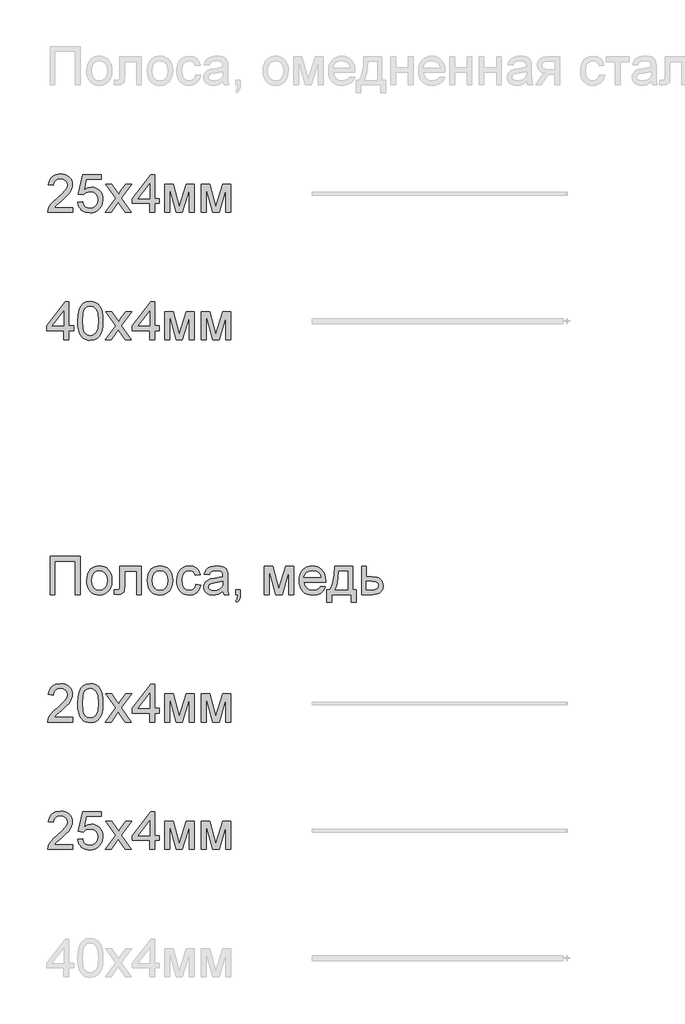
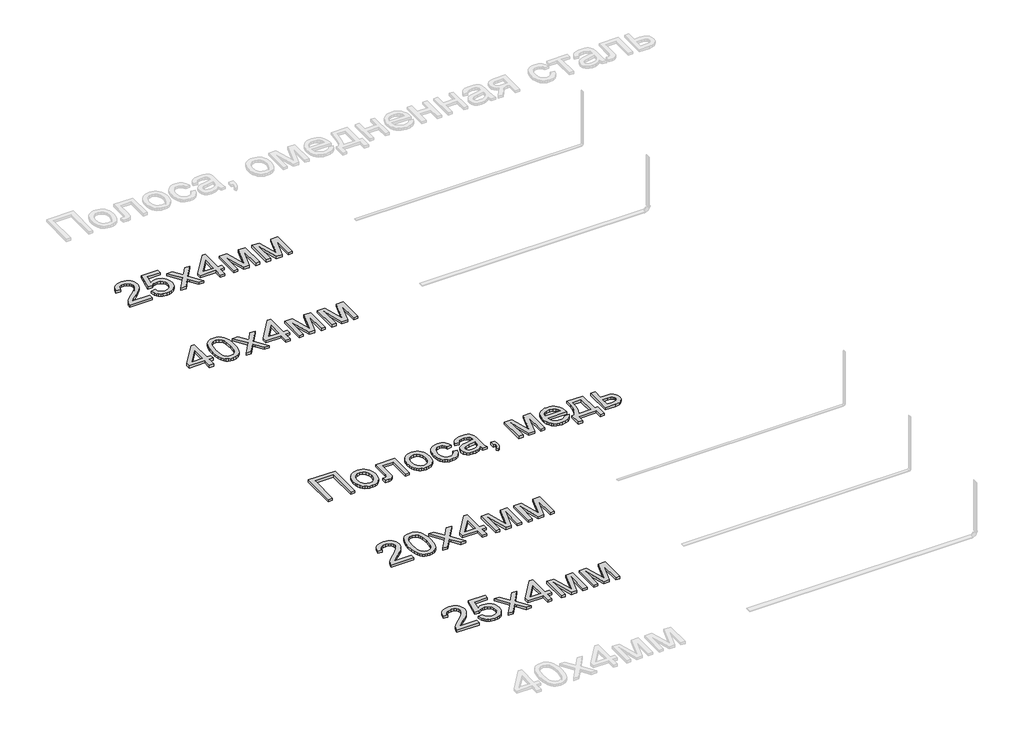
# One storey, part 84 of 124: 5 proxies.
"""IFC4 building model written with IfcOpenShell, lengths in millimetres."""

from ifc_helpers import new_model, si_unit, origin, origin_with_axes, place, context, project, spatial, polyline, outline, extrude, element, save

model = new_model("IFC4")

# Units and contexts
model_context = context("Model", 3, world=origin())
ifc_project = project(units=[si_unit("LENGTHUNIT", "METRE", prefix="MILLI")], contexts=[model_context])

# Site, building, storey
site = spatial("IfcSite", under=ifc_project)
building = spatial("IfcBuilding", under=site)
storey = spatial("IfcBuildingStorey", under=building, Name="Этаж 01", Elevation=0.0)

# Proxies
placement = place(None, origin())
element("IfcBuildingElementProxy", 1, Name="300", ObjectType="300", at=placement, inside=storey, context=model_context, shape_type="SweptSolid", body=[
    extrude(outline(polyline([(1478.7598701, -26181.842987), (1478.7598701, -26219.5141033), (1280.9865095, -26219.5141033), (1285.0332115, -26193.5416344), (1294.3222319, -26173.2437453), (1307.9154716, -26153.5528615), (1327.5787642, -26132.9422727), (1355.0779434, -26109.8852687), (1395.7289038, -26073.7776509), (1420.1194801, -26047.1246003), (1432.3147683, -26025.493139), (1436.3798643, -26004.4502889), (1432.5446945, -25985.5871396), (1421.0391851, -25969.9061695), (1403.3532582, -25959.3387592), (1380.9768358, -25955.8162891), (1357.4783734, -25959.2559858), (1339.2222294, -25969.5750757), (1327.4408085, -25985.9642186), (1323.3665154, -26007.614074), (1285.6953991, -26002.9051845), (1294.8280696, -25966.4664729), (1303.3744282, -25951.9305355), (1314.5741357, -25939.8502105), (1328.1696747, -25930.3542565), (1343.9035278, -25923.5714322), (1381.7861762, -25918.1451728), (1401.976, -25919.653489), (1419.9447362, -25924.1784375), (1435.6923848, -25931.7200184), (1449.2189459, -25942.2782317), (1460.0829611, -25955.0713281), (1467.8429719, -25969.3175583), (1472.4989784, -25985.0169225), (1474.0509806, -26002.1694205), (1472.3771175, -26020.1864412), (1467.3555283, -26037.8907622), (1458.443587, -26055.8985859), (1445.0986676, -26074.8261146), (1423.8258912, -26097.4232661), (1391.1303789, -26126.4399585), (1347.7938799, -26162.676335), (1330.7977317, -26181.842987), (1478.7598701, -26181.842987)])), origin_with_axes(), (0.0, 0.0, 1.0), 20.0),
    extrude(outline(polyline([(1516.4309865, -26139.4629811), (1554.1021028, -26134.7540916), (1561.0182843, -26157.3696372), (1573.0848137, -26173.5656421), (1590.2465088, -26183.3053179), (1612.4481872, -26186.5518765), (1639.4507256, -26182.036125), (1659.6842354, -26168.4888705), (1672.3209819, -26147.4736116), (1676.5332308, -26120.5538466), (1672.5876964, -26095.2067771), (1660.7510932, -26075.8193959), (1640.9314507, -26063.5137432), (1613.0367984, -26059.411859), (1594.7622603, -26061.0489338), (1579.964207, -26065.9601585), (1558.8109923, -26082.9563067), (1521.139876, -26078.2474171), (1554.1021028, -25922.8540624), (1700.0776784, -25922.8540624), (1700.0776784, -25960.5251787), (1584.562732, -25960.5251787), (1568.4495006, -26043.5193568), (1595.3600685, -26027.1853962), (1623.5582234, -26021.7407427), (1641.9040387, -26023.4284013), (1658.7553333, -26028.4913773), (1674.1121074, -26036.9296705), (1687.9743608, -26048.7432811), (1699.4499798, -26063.2102406), (1707.6468505, -26079.6085805), (1712.5649729, -26097.9383009), (1714.2043471, -26118.1994018), (1708.299841, -26155.8705181), (1700.9192085, -26172.6643312), (1690.586323, -26188.0969809), (1674.9329441, -26203.9021111), (1656.667603, -26215.1914898), (1635.7902998, -26221.9651171), (1612.3010344, -26224.2229928), (1575.3013027, -26218.4196543), (1559.622632, -26211.1654812), (1545.8247579, -26201.0096389), (1534.3445404, -26188.4579651), (1525.6188393, -26174.0162975), (1516.4309865, -26139.4629811)])), origin_with_axes(), (0.0, 0.0, 1.0), 20.0),
    extrude(outline(polyline([(1733.0399052, -26219.5141033), (1813.5324858, -26108.2665879), (1737.7487948, -25998.196295), (1783.0718566, -25998.196295), (1819.6393269, -26051.1713023), (1836.7090515, -26076.1872779), (1851.4979077, -26055.733039), (1893.1421495, -25998.196295), (1938.4652113, -25998.196295), (1858.8555476, -26108.2665879), (1935.5221554, -26219.5141033), (1890.1990936, -26219.5141033), (1844.0666914, -26152.6331565), (1835.6054055, -26140.4194743), (1778.362967, -26219.5141033), (1733.0399052, -26219.5141033)])), origin_with_axes(), (0.0, 0.0, 1.0), 20.0),
    extrude(outline(polyline([(2081.497731, -26219.5141033), (2081.497731, -26148.8807602), (1944.9399344, -26148.8807602), (1944.9399344, -26111.2096439), (2090.9155101, -25922.8540624), (2119.1688474, -25922.8540624), (2119.1688474, -26111.2096439), (2156.8399637, -26111.2096439), (2156.8399637, -26148.8807602), (2119.1688474, -26148.8807602), (2119.1688474, -26219.5141033), (2081.497731, -26219.5141033)]), holes=[polyline([(2081.497731, -26111.2096439), (2081.497731, -25994.8117806), (1991.2930658, -26111.2096439), (2081.497731, -26111.2096439)])]), origin_with_axes(), (0.0, 0.0, 1.0), 20.0),
    extrude(outline(polyline([(2199.2199695, -25998.196295), (2264.0407771, -25998.196295), (2313.999152, -26175.3682638), (2367.8570761, -25998.196295), (2429.9555569, -25998.196295), (2429.9555569, -26219.5141033), (2392.2844406, -26219.5141033), (2392.2844406, -26041.3120648), (2338.1322109, -26219.5141033), (2288.6888707, -26219.5141033), (2236.8910858, -26032.7772025), (2236.8910858, -26219.5141033), (2199.2199695, -26219.5141033), (2199.2199695, -25998.196295)])), origin_with_axes(), (0.0, 0.0, 1.0), 20.0),
    extrude(outline(polyline([(2486.4622313, -25998.196295), (2551.2830389, -25998.196295), (2601.2414138, -26175.3682638), (2655.0993379, -25998.196295), (2717.1978187, -25998.196295), (2717.1978187, -26219.5141033), (2679.5267024, -26219.5141033), (2679.5267024, -26041.3120648), (2625.3744727, -26219.5141033), (2575.9311326, -26219.5141033), (2524.1333476, -26032.7772025), (2524.1333476, -26219.5141033), (2486.4622313, -26219.5141033), (2486.4622313, -25998.196295)])), origin_with_axes(), (0.0, 0.0, 1.0), 20.0),
])
element("IfcBuildingElementProxy", 2, Name="300", ObjectType="300", at=placement, inside=storey, context=model_context, shape_type="SweptSolid", body=[
    extrude(outline(polyline([(1408.1265271, -27219.5141033), (1408.1265271, -27148.8807602), (1271.5687305, -27148.8807602), (1271.5687305, -27111.2096439), (1417.5443062, -26922.8540624), (1445.7976434, -26922.8540624), (1445.7976434, -27111.2096439), (1483.4687597, -27111.2096439), (1483.4687597, -27148.8807602), (1445.7976434, -27148.8807602), (1445.7976434, -27219.5141033), (1408.1265271, -27219.5141033)]), holes=[polyline([(1408.1265271, -27111.2096439), (1408.1265271, -26994.8117806), (1317.9218619, -27111.2096439), (1408.1265271, -27111.2096439)])]), origin_with_axes(), (0.0, 0.0, 1.0), 20.0),
    extrude(outline(polyline([(1516.4309865, -27071.2576592), (1519.1992985, -27023.0191326), (1527.5042345, -26984.5478729), (1541.2630211, -26955.2552691), (1560.3928849, -26934.5527098), (1585.0317815, -26922.2470571), (1615.3176668, -26918.1451728), (1638.5310207, -26920.573194), (1659.3163534, -26927.8572575), (1676.6987777, -26939.7122548), (1689.7034062, -26955.8530773), (1699.5258555, -26976.1417694), (1707.361742, -27000.4403751), (1712.4936958, -27031.2964775), (1714.2043471, -27071.2576592), (1711.4636262, -27119.2202743), (1703.2414636, -27157.5995635), (1689.5654504, -27186.9197585), (1670.4631778, -27207.7050912), (1645.7690989, -27220.0935174), (1615.3176668, -27224.2229928), (1594.5691222, -27222.4295681), (1576.1750225, -27217.0492939), (1560.1353675, -27208.0821703), (1546.4501573, -27195.5281972), (1533.31677, -27172.8344766), (1523.9357792, -27144.5581467), (1518.3071846, -27110.6992076), (1516.4309865, -27071.2576592)]), holes=[polyline([(1554.1021028, -27071.1840828), (1558.5166867, -27130.4406752), (1564.0349166, -27150.7086739), (1571.7604385, -27164.7364742), (1591.4789135, -27181.0980259), (1615.3176668, -27186.5518765), (1639.15642, -27181.0796318), (1658.874895, -27164.6628978), (1666.6004169, -27150.6121048), (1672.1186468, -27130.3487047), (1676.5332308, -27071.1840828), (1672.2657996, -27013.2610627), (1666.9315107, -26993.0597426), (1659.4635062, -26978.6985492), (1639.7818194, -26961.5368541), (1614.8762084, -26955.8162891), (1591.2949725, -26960.8562725), (1572.3490497, -26975.9762225), (1564.3660104, -26991.6112072), (1558.6638395, -27012.6908456), (1554.1021028, -27071.1840828)])]), origin_with_axes(), (0.0, 0.0, 1.0), 20.0),
    extrude(outline(polyline([(1733.0399052, -27219.5141033), (1813.5324858, -27108.2665879), (1737.7487948, -26998.196295), (1783.0718566, -26998.196295), (1819.6393269, -27051.1713023), (1836.7090515, -27076.1872779), (1851.4979077, -27055.733039), (1893.1421495, -26998.196295), (1938.4652113, -26998.196295), (1858.8555476, -27108.2665879), (1935.5221554, -27219.5141033), (1890.1990936, -27219.5141033), (1844.0666914, -27152.6331565), (1835.6054055, -27140.4194743), (1778.362967, -27219.5141033), (1733.0399052, -27219.5141033)])), origin_with_axes(), (0.0, 0.0, 1.0), 20.0),
    extrude(outline(polyline([(2081.497731, -27219.5141033), (2081.497731, -27148.8807602), (1944.9399344, -27148.8807602), (1944.9399344, -27111.2096439), (2090.9155101, -26922.8540624), (2119.1688474, -26922.8540624), (2119.1688474, -27111.2096439), (2156.8399637, -27111.2096439), (2156.8399637, -27148.8807602), (2119.1688474, -27148.8807602), (2119.1688474, -27219.5141033), (2081.497731, -27219.5141033)]), holes=[polyline([(2081.497731, -27111.2096439), (2081.497731, -26994.8117806), (1991.2930658, -27111.2096439), (2081.497731, -27111.2096439)])]), origin_with_axes(), (0.0, 0.0, 1.0), 20.0),
    extrude(outline(polyline([(2199.2199695, -26998.196295), (2264.0407771, -26998.196295), (2313.999152, -27175.3682638), (2367.8570761, -26998.196295), (2429.9555569, -26998.196295), (2429.9555569, -27219.5141033), (2392.2844406, -27219.5141033), (2392.2844406, -27041.3120648), (2338.1322109, -27219.5141033), (2288.6888707, -27219.5141033), (2236.8910858, -27032.7772025), (2236.8910858, -27219.5141033), (2199.2199695, -27219.5141033), (2199.2199695, -26998.196295)])), origin_with_axes(), (0.0, 0.0, 1.0), 20.0),
    extrude(outline(polyline([(2486.4622313, -26998.196295), (2551.2830389, -26998.196295), (2601.2414138, -27175.3682638), (2655.0993379, -26998.196295), (2717.1978187, -26998.196295), (2717.1978187, -27219.5141033), (2679.5267024, -27219.5141033), (2679.5267024, -27041.3120648), (2625.3744727, -27219.5141033), (2575.9311326, -27219.5141033), (2524.1333476, -27032.7772025), (2524.1333476, -27219.5141033), (2486.4622313, -27219.5141033), (2486.4622313, -26998.196295)])), origin_with_axes(), (0.0, 0.0, 1.0), 20.0),
])
element("IfcBuildingElementProxy", 3, Name="300", ObjectType="300", at=placement, inside=storey, context=model_context, shape_type="SweptSolid", body=[
    extrude(outline(polyline([(1299.8220677, -28918.1451728), (1535.2665446, -28918.1451728), (1535.2665446, -29219.5141033), (1497.5954283, -29219.5141033), (1497.5954283, -28955.8162891), (1337.493184, -28955.8162891), (1337.493184, -29219.5141033), (1299.8220677, -29219.5141033), (1299.8220677, -28918.1451728)])), origin_with_axes(), (0.0, 0.0, 1.0), 20.0),
    extrude(outline(polyline([(1587.0643295, -29108.8551991), (1589.1014761, -29080.1925932), (1595.2129157, -29055.4939157), (1605.3986485, -29034.7591668), (1619.6586743, -29017.9883463), (1634.0152692, -29007.2691847), (1649.8617861, -28999.6126406), (1667.1982251, -28995.0187142), (1686.0245862, -28993.4874054), (1706.8076197, -28995.3521073), (1725.5994919, -29000.9462129), (1742.4002027, -29010.2697222), (1757.2097523, -29023.3226352), (1769.2969751, -29039.6634936), (1777.9307057, -29058.8508389), (1783.110944, -29080.8846712), (1784.8376901, -29105.7649904), (1781.7842696, -29143.8223828), (1772.6240079, -29172.7930899), (1757.6236195, -29194.4889305), (1737.049819, -29210.7217236), (1712.6132574, -29220.8476755), (1686.0245862, -29224.2229928), (1664.9380501, -29222.3651887), (1645.971434, -29216.7917765), (1629.1247379, -29207.5027561), (1614.3979618, -29194.4981276), (1602.4394977, -29177.9986201), (1593.8977376, -29158.2249629), (1588.7726815, -29135.1771559), (1587.0643295, -29108.8551991)]), holes=[polyline([(1624.7354458, -29108.7816227), (1629.0948475, -29142.8750866), (1642.1730524, -29167.1644953), (1661.8547391, -29181.7050312), (1686.0245862, -29186.5518765), (1710.0840687, -29181.6774401), (1729.7289673, -29167.0541307), (1742.8071722, -29142.4428253), (1747.1665738, -29107.6044003), (1742.779581, -29074.5042178), (1729.6186027, -29050.5459029), (1709.946113, -29036.005367), (1686.0245862, -29031.1585217), (1661.8547391, -29035.9869729), (1642.1730524, -29050.4723265), (1629.0948475, -29074.7065529), (1624.7354458, -29108.7816227)])]), origin_with_axes(), (0.0, 0.0, 1.0), 20.0),
    extrude(outline(polyline([(1846.0532541, -28998.196295), (2015.5732775, -28998.196295), (2015.5732775, -29219.2933741), (1977.9021612, -29219.2933741), (1977.9021612, -29035.8674113), (1883.7243704, -29035.8674113), (1883.7243704, -29141.4495439), (1881.1859847, -29190.15712), (1876.4311099, -29201.1843829), (1867.2432571, -29210.7217236), (1853.3005294, -29217.3160083), (1834.2810303, -29219.5141033), (1803.6732483, -29217.6011169), (1803.6732483, -29181.842987), (1820.5222437, -29181.842987), (1837.55518, -29179.5253304), (1844.360997, -29172.1676905), (1846.0532541, -29139.3158283), (1846.0532541, -28998.196295)])), origin_with_axes(), (0.0, 0.0, 1.0), 20.0),
    extrude(outline(polyline([(2062.6621729, -29108.8551991), (2064.6993194, -29080.1925932), (2070.8107591, -29055.4939157), (2080.9964918, -29034.7591668), (2095.2565177, -29017.9883463), (2109.6131125, -29007.2691847), (2125.4596295, -28999.6126406), (2142.7960685, -28995.0187142), (2161.6224296, -28993.4874054), (2182.4054631, -28995.3521073), (2201.1973352, -29000.9462129), (2217.9980461, -29010.2697222), (2232.8075957, -29023.3226352), (2244.8948185, -29039.6634936), (2253.528549, -29058.8508389), (2258.7087874, -29080.8846712), (2260.4355335, -29105.7649904), (2257.3821129, -29143.8223828), (2248.2218513, -29172.7930899), (2233.2214629, -29194.4889305), (2212.6476623, -29210.7217236), (2188.2111008, -29220.8476755), (2161.6224296, -29224.2229928), (2140.5358935, -29222.3651887), (2121.5692774, -29216.7917765), (2104.7225813, -29207.5027561), (2089.9958051, -29194.4981276), (2078.037341, -29177.9986201), (2069.495581, -29158.2249629), (2064.3705249, -29135.1771559), (2062.6621729, -29108.8551991)]), holes=[polyline([(2100.3332892, -29108.7816227), (2104.6926908, -29142.8750866), (2117.7708958, -29167.1644953), (2137.4525825, -29181.7050312), (2161.6224296, -29186.5518765), (2185.6819121, -29181.6774401), (2205.3268106, -29167.0541307), (2218.4050156, -29142.4428253), (2222.7644172, -29107.6044003), (2218.3774244, -29074.5042178), (2205.216446, -29050.5459029), (2185.5439563, -29036.005367), (2161.6224296, -29031.1585217), (2137.4525825, -29035.9869729), (2117.7708958, -29050.4723265), (2104.6926908, -29074.7065529), (2100.3332892, -29108.7816227)])]), origin_with_axes(), (0.0, 0.0, 1.0), 20.0),
    extrude(outline(polyline([(2444.0822255, -29139.4629811), (2481.7533418, -29144.1718706), (2471.2503108, -29177.6767234), (2451.5134418, -29202.9962017), (2424.4005387, -29218.916295), (2391.7694058, -29224.2229928), (2370.6414829, -29222.3720865), (2351.6978595, -29216.8193676), (2334.9385353, -29207.5648362), (2320.3635105, -29194.6084922), (2308.5659948, -29178.1940574), (2300.1391978, -29158.5652537), (2295.0831197, -29135.7220811), (2293.3977603, -29109.6645395), (2296.2764369, -29076.1412927), (2304.9124667, -29047.0878121), (2319.4438055, -29023.6261379), (2340.0084091, -29006.87831), (2364.6105175, -28996.8351316), (2391.254371, -28993.4874054), (2423.0853606, -28998.0859304), (2448.5335976, -29011.8815052), (2466.7897416, -29034.1383659), (2477.0444523, -29064.1207485), (2439.373336, -29068.829638), (2432.5399279, -29052.3945099), (2421.8989412, -29040.613089), (2408.038987, -29033.5221635), (2391.5486766, -29031.1585217), (2367.2040855, -29035.812229), (2347.8810838, -29049.7733507), (2335.2719284, -29073.796045), (2331.0688766, -29108.6344699), (2335.1799579, -29143.9419444), (2347.5132018, -29168.0474121), (2366.4867157, -29181.9257604), (2390.518607, -29186.5518765), (2410.0255498, -29183.6640028), (2426.0192195, -29175.0003818), (2437.6534876, -29160.3402843), (2444.0822255, -29139.4629811)])), origin_with_axes(), (0.0, 0.0, 1.0), 20.0),
    extrude(outline(polyline([(2655.9822547, -29191.260766), (2637.9836281, -29206.6934157), (2619.4515726, -29216.7917765), (2599.9630239, -29222.3651887), (2579.0949177, -29224.2229928), (2547.613416, -29219.7532266), (2524.390865, -29206.3439278), (2510.0710584, -29185.9816594), (2505.2977895, -29160.652984), (2507.1004113, -29145.0363933), (2512.5082766, -29130.8545424), (2520.8500008, -29118.7144366), (2531.4541993, -29109.2230811), (2557.8313384, -29096.8622461), (2590.4256832, -29091.1968633), (2628.9429281, -29085.237175), (2655.7615255, -29078.2474171), (2655.9822547, -29069.8597076), (2653.3886866, -29053.0475004), (2645.6079824, -29042.0478288), (2628.2071641, -29033.8808485), (2603.9637406, -29031.1585217), (2581.5229389, -29032.9703406), (2565.8511659, -29038.405797), (2555.1641939, -29048.4581726), (2547.6777953, -29064.1207485), (2510.006679, -29059.411859), (2516.5457815, -29038.8104672), (2526.3038514, -29022.6236594), (2540.1913967, -29010.2444303), (2559.1189254, -29001.0657745), (2582.2678999, -28995.3819977), (2608.8197829, -28993.4874054), (2634.286414, -28995.1612685), (2654.4739385, -29000.1828577), (2669.6950561, -29007.7336357), (2680.2624664, -29016.9950649), (2687.2706184, -29028.445392), (2691.813961, -29042.5628636), (2693.653371, -29075.5250903), (2693.653371, -29122.3932565), (2695.5663574, -29187.8394635), (2703.0711501, -29219.5141033), (2665.4000338, -29219.5141033), (2655.9822547, -29191.260766)]), holes=[polyline([(2655.9822547, -29115.9185334), (2595.2081491, -29127.4700281), (2562.7977453, -29133.5768692), (2548.1192537, -29143.5096831), (2542.9689058, -29158.0042337), (2545.774006, -29169.2062404), (2554.1893066, -29178.3848962), (2568.0308667, -29184.5101314), (2587.1147452, -29186.5518765), (2607.348255, -29184.2985993), (2625.2273199, -29177.5387676), (2639.7218705, -29167.5783626), (2649.8018372, -29155.7233653), (2654.2716034, -29143.5096831), (2655.7615255, -29126.5871113), (2655.9822547, -29115.9185334)])]), origin_with_axes(), (0.0, 0.0, 1.0), 20.0),
    extrude(outline(polyline([(2754.868935, -29219.5141033), (2754.868935, -29181.842987), (2792.5400513, -29181.842987), (2792.5400513, -29219.5141033), (2790.8477941, -29241.0627911), (2785.7710226, -29258.0313482), (2777.0154311, -29271.0451737), (2764.2867141, -29280.7296673), (2754.868935, -29266.6029986), (2763.0359153, -29259.7787876), (2768.701298, -29250.3426145), (2773.6309168, -29219.5141033), (2754.868935, -29219.5141033)])), origin_with_axes(), (0.0, 0.0, 1.0), 20.0),
    extrude(outline(polyline([(2980.8956329, -28998.196295), (3045.7164404, -28998.196295), (3095.6748153, -29175.3682638), (3149.5327394, -28998.196295), (3211.6312202, -28998.196295), (3211.6312202, -29219.5141033), (3173.9601039, -29219.5141033), (3173.9601039, -29041.3120648), (3119.8078742, -29219.5141033), (3070.3645341, -29219.5141033), (3018.5667492, -29032.7772025), (3018.5667492, -29219.5141033), (2980.8956329, -29219.5141033), (2980.8956329, -28998.196295)])), origin_with_axes(), (0.0, 0.0, 1.0), 20.0),
    extrude(outline(polyline([(3423.0897911, -29153.5896497), (3460.0251434, -29158.2985393), (3446.7170122, -29186.1288122), (3425.481024, -29206.932539), (3396.7954255, -29219.9003794), (3361.1384631, -29224.2229928), (3337.7641608, -29222.3582909), (3316.9374413, -29216.7641853), (3298.6583047, -29207.440676), (3282.9267509, -29194.387763), (3270.2762088, -29177.9687297), (3261.2401073, -29158.5468596), (3255.8184464, -29136.1221527), (3254.0112261, -29110.6946091), (3255.8368405, -29084.404842), (3261.3136837, -29061.2328748), (3270.4417557, -29041.1787076), (3283.2210565, -29024.2423402), (3298.9112236, -29010.7870562), (3316.7718945, -29001.1761391), (3336.8030691, -28995.4095888), (3359.0047475, -28993.4874054), (3380.4913553, -28995.4049903), (3399.9224224, -29001.157745), (3417.2979489, -29010.7456695), (3432.6179347, -29024.1687638), (3445.1236233, -29041.068343), (3454.056258, -29061.085722), (3459.4158388, -29084.220901), (3461.2023658, -29110.4738799), (3460.9816366, -29120.627423), (3291.6823424, -29120.627423), (3298.2030507, -29148.8255779), (3313.3505919, -29169.5557283), (3335.2119795, -29182.3028394), (3361.8742271, -29186.5518765), (3381.9237958, -29184.5837078), (3398.8095794, -29178.6792018), (3412.5315778, -29168.4704764), (3423.0897911, -29153.5896497)]), holes=[polyline([(3291.6823424, -29082.9563067), (3423.5312495, -29082.9563067), (3418.4360838, -29063.0538907), (3408.4480876, -29048.8168575), (3386.4855325, -29035.5731057), (3358.8575947, -29031.1585217), (3333.46454, -29034.6809918), (3312.4676751, -29045.2484021), (3297.8719569, -29061.7203185), (3291.6823424, -29082.9563067)])]), origin_with_axes(), (0.0, 0.0, 1.0), 20.0),
    extrude(outline(polyline([(3531.8357088, -28998.196295), (3673.102395, -28998.196295), (3673.102395, -29181.842987), (3701.3557322, -29181.842987), (3701.3557322, -29280.7296673), (3663.6846159, -29280.7296673), (3663.6846159, -29219.5141033), (3508.2912611, -29219.5141033), (3508.2912611, -29280.7296673), (3470.6201448, -29280.7296673), (3470.6201448, -29181.842987), (3494.1645925, -29181.842987), (3511.2803023, -29150.9133082), (3523.2640583, -29109.9956333), (3530.1158605, -29059.0899622), (3531.8357088, -28998.196295)]), holes=[polyline([(3564.7979356, -29035.8674113), (3561.7077268, -29081.9906164), (3555.9687677, -29121.6942807), (3547.5810582, -29154.9784043), (3536.5445984, -29181.842987), (3635.4312787, -29181.842987), (3635.4312787, -29035.8674113), (3564.7979356, -29035.8674113)])]), origin_with_axes(), (0.0, 0.0, 1.0), 20.0),
    extrude(outline(polyline([(3743.7357381, -28998.196295), (3781.4068544, -28998.196295), (3781.4068544, -29078.2474171), (3824.8169298, -29078.2474171), (3862.4512579, -29082.9655037), (3877.598799, -29088.8631119), (3890.2999249, -29097.1197635), (3900.3431034, -29107.4503497), (3907.5168023, -29119.5697622), (3913.2557614, -29149.1750658), (3908.3721279, -29176.131619), (3893.7212275, -29198.8759233), (3882.4893303, -29207.9051271), (3868.3281728, -29214.3545583), (3831.2180765, -29219.5141033), (3743.7357381, -29219.5141033), (3743.7357381, -28998.196295)]), holes=[polyline([(3781.4068544, -29181.842987), (3816.5763731, -29181.842987), (3843.8640201, -29179.8656212), (3862.0097995, -29173.9335241), (3872.1909337, -29163.8075721), (3875.5846451, -29149.2486422), (3873.0738505, -29136.9429894), (3865.5414667, -29126.0720765), (3849.4006441, -29118.4569192), (3821.0645334, -29115.9185334), (3781.4068544, -29115.9185334), (3781.4068544, -29181.842987)])]), origin_with_axes(), (0.0, 0.0, 1.0), 20.0),
])
element("IfcBuildingElementProxy", 4, Name="300", ObjectType="300", at=placement, inside=storey, context=model_context, shape_type="SweptSolid", body=[
    extrude(outline(polyline([(1478.7598701, -31181.842987), (1478.7598701, -31219.5141033), (1280.9865095, -31219.5141033), (1285.0332115, -31193.5416344), (1294.3222319, -31173.2437453), (1307.9154716, -31153.5528615), (1327.5787642, -31132.9422727), (1355.0779434, -31109.8852687), (1395.7289038, -31073.7776509), (1420.1194801, -31047.1246003), (1432.3147683, -31025.493139), (1436.3798643, -31004.4502889), (1432.5446945, -30985.5871396), (1421.0391851, -30969.9061695), (1403.3532582, -30959.3387592), (1380.9768358, -30955.8162891), (1357.4783734, -30959.2559858), (1339.2222294, -30969.5750757), (1327.4408085, -30985.9642186), (1323.3665154, -31007.614074), (1285.6953991, -31002.9051845), (1294.8280696, -30966.4664729), (1303.3744282, -30951.9305355), (1314.5741357, -30939.8502105), (1328.1696747, -30930.3542565), (1343.9035278, -30923.5714322), (1381.7861762, -30918.1451728), (1401.976, -30919.653489), (1419.9447362, -30924.1784375), (1435.6923848, -30931.7200184), (1449.2189459, -30942.2782317), (1460.0829611, -30955.0713281), (1467.8429719, -30969.3175583), (1472.4989784, -30985.0169225), (1474.0509806, -31002.1694205), (1472.3771175, -31020.1864412), (1467.3555283, -31037.8907622), (1458.443587, -31055.8985859), (1445.0986676, -31074.8261146), (1423.8258912, -31097.4232661), (1391.1303789, -31126.4399585), (1347.7938799, -31162.676335), (1330.7977317, -31181.842987), (1478.7598701, -31181.842987)])), origin_with_axes(), (0.0, 0.0, 1.0), 20.0),
    extrude(outline(polyline([(1516.4309865, -31139.4629811), (1554.1021028, -31134.7540916), (1561.0182843, -31157.3696372), (1573.0848137, -31173.5656421), (1590.2465088, -31183.3053179), (1612.4481872, -31186.5518765), (1639.4507256, -31182.036125), (1659.6842354, -31168.4888705), (1672.3209819, -31147.4736116), (1676.5332308, -31120.5538466), (1672.5876964, -31095.2067771), (1660.7510932, -31075.8193959), (1640.9314507, -31063.5137432), (1613.0367984, -31059.411859), (1594.7622603, -31061.0489338), (1579.964207, -31065.9601585), (1558.8109923, -31082.9563067), (1521.139876, -31078.2474171), (1554.1021028, -30922.8540624), (1700.0776784, -30922.8540624), (1700.0776784, -30960.5251787), (1584.562732, -30960.5251787), (1568.4495006, -31043.5193568), (1595.3600685, -31027.1853962), (1623.5582234, -31021.7407427), (1641.9040387, -31023.4284013), (1658.7553333, -31028.4913773), (1674.1121074, -31036.9296705), (1687.9743608, -31048.7432811), (1699.4499798, -31063.2102406), (1707.6468505, -31079.6085805), (1712.5649729, -31097.9383009), (1714.2043471, -31118.1994018), (1708.299841, -31155.8705181), (1700.9192085, -31172.6643312), (1690.586323, -31188.0969809), (1674.9329441, -31203.9021111), (1656.667603, -31215.1914898), (1635.7902998, -31221.9651171), (1612.3010344, -31224.2229928), (1575.3013027, -31218.4196543), (1559.622632, -31211.1654812), (1545.8247579, -31201.0096389), (1534.3445404, -31188.4579651), (1525.6188393, -31174.0162975), (1516.4309865, -31139.4629811)])), origin_with_axes(), (0.0, 0.0, 1.0), 20.0),
    extrude(outline(polyline([(1733.0399052, -31219.5141033), (1813.5324858, -31108.2665879), (1737.7487948, -30998.196295), (1783.0718566, -30998.196295), (1819.6393269, -31051.1713023), (1836.7090515, -31076.1872779), (1851.4979077, -31055.733039), (1893.1421495, -30998.196295), (1938.4652113, -30998.196295), (1858.8555476, -31108.2665879), (1935.5221554, -31219.5141033), (1890.1990936, -31219.5141033), (1844.0666914, -31152.6331565), (1835.6054055, -31140.4194743), (1778.362967, -31219.5141033), (1733.0399052, -31219.5141033)])), origin_with_axes(), (0.0, 0.0, 1.0), 20.0),
    extrude(outline(polyline([(2081.497731, -31219.5141033), (2081.497731, -31148.8807602), (1944.9399344, -31148.8807602), (1944.9399344, -31111.2096439), (2090.9155101, -30922.8540624), (2119.1688474, -30922.8540624), (2119.1688474, -31111.2096439), (2156.8399637, -31111.2096439), (2156.8399637, -31148.8807602), (2119.1688474, -31148.8807602), (2119.1688474, -31219.5141033), (2081.497731, -31219.5141033)]), holes=[polyline([(2081.497731, -31111.2096439), (2081.497731, -30994.8117806), (1991.2930658, -31111.2096439), (2081.497731, -31111.2096439)])]), origin_with_axes(), (0.0, 0.0, 1.0), 20.0),
    extrude(outline(polyline([(2199.2199695, -30998.196295), (2264.0407771, -30998.196295), (2313.999152, -31175.3682638), (2367.8570761, -30998.196295), (2429.9555569, -30998.196295), (2429.9555569, -31219.5141033), (2392.2844406, -31219.5141033), (2392.2844406, -31041.3120648), (2338.1322109, -31219.5141033), (2288.6888707, -31219.5141033), (2236.8910858, -31032.7772025), (2236.8910858, -31219.5141033), (2199.2199695, -31219.5141033), (2199.2199695, -30998.196295)])), origin_with_axes(), (0.0, 0.0, 1.0), 20.0),
    extrude(outline(polyline([(2486.4622313, -30998.196295), (2551.2830389, -30998.196295), (2601.2414138, -31175.3682638), (2655.0993379, -30998.196295), (2717.1978187, -30998.196295), (2717.1978187, -31219.5141033), (2679.5267024, -31219.5141033), (2679.5267024, -31041.3120648), (2625.3744727, -31219.5141033), (2575.9311326, -31219.5141033), (2524.1333476, -31032.7772025), (2524.1333476, -31219.5141033), (2486.4622313, -31219.5141033), (2486.4622313, -30998.196295)])), origin_with_axes(), (0.0, 0.0, 1.0), 20.0),
])
element("IfcBuildingElementProxy", 5, Name="300", ObjectType="300", at=placement, inside=storey, context=model_context, shape_type="SweptSolid", body=[
    extrude(outline(polyline([(1478.7598701, -30181.842987), (1478.7598701, -30219.5141033), (1280.9865095, -30219.5141033), (1285.0332115, -30193.5416344), (1294.3222319, -30173.2437453), (1307.9154716, -30153.5528615), (1327.5787642, -30132.9422727), (1355.0779434, -30109.8852687), (1395.7289038, -30073.7776509), (1420.1194801, -30047.1246003), (1432.3147683, -30025.493139), (1436.3798643, -30004.4502889), (1432.5446945, -29985.5871396), (1421.0391851, -29969.9061695), (1403.3532582, -29959.3387592), (1380.9768358, -29955.8162891), (1357.4783734, -29959.2559858), (1339.2222294, -29969.5750757), (1327.4408085, -29985.9642186), (1323.3665154, -30007.614074), (1285.6953991, -30002.9051845), (1294.8280696, -29966.4664729), (1303.3744282, -29951.9305355), (1314.5741357, -29939.8502105), (1328.1696747, -29930.3542565), (1343.9035278, -29923.5714322), (1381.7861762, -29918.1451728), (1401.976, -29919.653489), (1419.9447362, -29924.1784375), (1435.6923848, -29931.7200184), (1449.2189459, -29942.2782317), (1460.0829611, -29955.0713281), (1467.8429719, -29969.3175583), (1472.4989784, -29985.0169225), (1474.0509806, -30002.1694205), (1472.3771175, -30020.1864412), (1467.3555283, -30037.8907622), (1458.443587, -30055.8985859), (1445.0986676, -30074.8261146), (1423.8258912, -30097.4232661), (1391.1303789, -30126.4399585), (1347.7938799, -30162.676335), (1330.7977317, -30181.842987), (1478.7598701, -30181.842987)])), origin_with_axes(), (0.0, 0.0, 1.0), 20.0),
    extrude(outline(polyline([(1516.4309865, -30071.2576592), (1519.1992985, -30023.0191326), (1527.5042345, -29984.5478729), (1541.2630211, -29955.2552691), (1560.3928849, -29934.5527098), (1585.0317815, -29922.2470571), (1615.3176668, -29918.1451728), (1638.5310207, -29920.573194), (1659.3163534, -29927.8572575), (1676.6987777, -29939.7122548), (1689.7034062, -29955.8530773), (1699.5258555, -29976.1417694), (1707.361742, -30000.4403751), (1712.4936958, -30031.2964775), (1714.2043471, -30071.2576592), (1711.4636262, -30119.2202743), (1703.2414636, -30157.5995635), (1689.5654504, -30186.9197585), (1670.4631778, -30207.7050912), (1645.7690989, -30220.0935174), (1615.3176668, -30224.2229928), (1594.5691222, -30222.4295681), (1576.1750225, -30217.0492939), (1560.1353675, -30208.0821703), (1546.4501573, -30195.5281972), (1533.31677, -30172.8344766), (1523.9357792, -30144.5581467), (1518.3071846, -30110.6992076), (1516.4309865, -30071.2576592)]), holes=[polyline([(1554.1021028, -30071.1840828), (1558.5166867, -30130.4406752), (1564.0349166, -30150.7086739), (1571.7604385, -30164.7364742), (1591.4789135, -30181.0980259), (1615.3176668, -30186.5518765), (1639.15642, -30181.0796318), (1658.874895, -30164.6628978), (1666.6004169, -30150.6121048), (1672.1186468, -30130.3487047), (1676.5332308, -30071.1840828), (1672.2657996, -30013.2610627), (1666.9315107, -29993.0597426), (1659.4635062, -29978.6985492), (1639.7818194, -29961.5368541), (1614.8762084, -29955.8162891), (1591.2949725, -29960.8562725), (1572.3490497, -29975.9762225), (1564.3660104, -29991.6112072), (1558.6638395, -30012.6908456), (1554.1021028, -30071.1840828)])]), origin_with_axes(), (0.0, 0.0, 1.0), 20.0),
    extrude(outline(polyline([(1733.0399052, -30219.5141033), (1813.5324858, -30108.2665879), (1737.7487948, -29998.196295), (1783.0718566, -29998.196295), (1819.6393269, -30051.1713023), (1836.7090515, -30076.1872779), (1851.4979077, -30055.733039), (1893.1421495, -29998.196295), (1938.4652113, -29998.196295), (1858.8555476, -30108.2665879), (1935.5221554, -30219.5141033), (1890.1990936, -30219.5141033), (1844.0666914, -30152.6331565), (1835.6054055, -30140.4194743), (1778.362967, -30219.5141033), (1733.0399052, -30219.5141033)])), origin_with_axes(), (0.0, 0.0, 1.0), 20.0),
    extrude(outline(polyline([(2081.497731, -30219.5141033), (2081.497731, -30148.8807602), (1944.9399344, -30148.8807602), (1944.9399344, -30111.2096439), (2090.9155101, -29922.8540624), (2119.1688474, -29922.8540624), (2119.1688474, -30111.2096439), (2156.8399637, -30111.2096439), (2156.8399637, -30148.8807602), (2119.1688474, -30148.8807602), (2119.1688474, -30219.5141033), (2081.497731, -30219.5141033)]), holes=[polyline([(2081.497731, -30111.2096439), (2081.497731, -29994.8117806), (1991.2930658, -30111.2096439), (2081.497731, -30111.2096439)])]), origin_with_axes(), (0.0, 0.0, 1.0), 20.0),
    extrude(outline(polyline([(2199.2199695, -29998.196295), (2264.0407771, -29998.196295), (2313.999152, -30175.3682638), (2367.8570761, -29998.196295), (2429.9555569, -29998.196295), (2429.9555569, -30219.5141033), (2392.2844406, -30219.5141033), (2392.2844406, -30041.3120648), (2338.1322109, -30219.5141033), (2288.6888707, -30219.5141033), (2236.8910858, -30032.7772025), (2236.8910858, -30219.5141033), (2199.2199695, -30219.5141033), (2199.2199695, -29998.196295)])), origin_with_axes(), (0.0, 0.0, 1.0), 20.0),
    extrude(outline(polyline([(2486.4622313, -29998.196295), (2551.2830389, -29998.196295), (2601.2414138, -30175.3682638), (2655.0993379, -29998.196295), (2717.1978187, -29998.196295), (2717.1978187, -30219.5141033), (2679.5267024, -30219.5141033), (2679.5267024, -30041.3120648), (2625.3744727, -30219.5141033), (2575.9311326, -30219.5141033), (2524.1333476, -30032.7772025), (2524.1333476, -30219.5141033), (2486.4622313, -30219.5141033), (2486.4622313, -29998.196295)])), origin_with_axes(), (0.0, 0.0, 1.0), 20.0),
])

save(model, "model.ifc")
